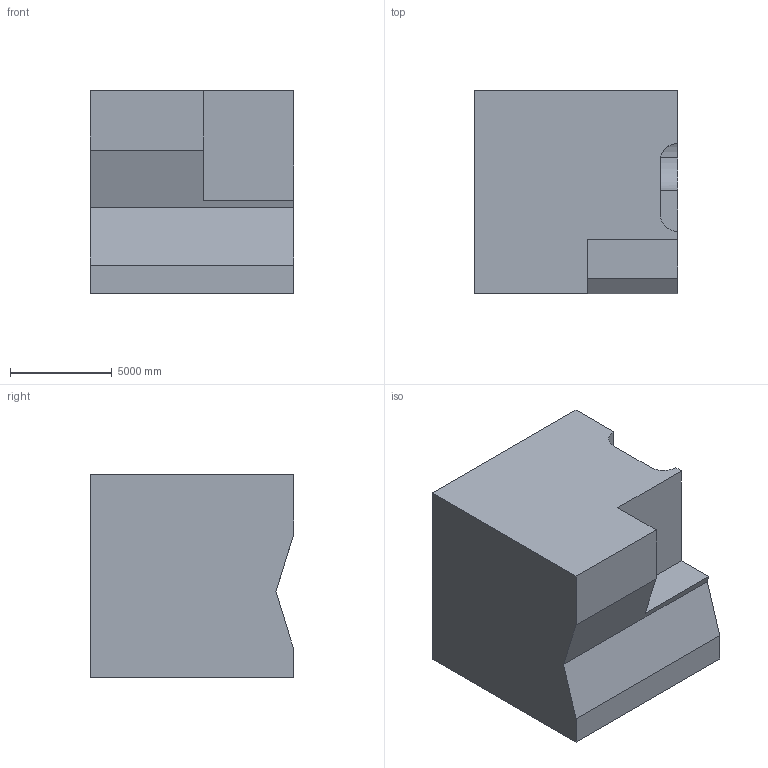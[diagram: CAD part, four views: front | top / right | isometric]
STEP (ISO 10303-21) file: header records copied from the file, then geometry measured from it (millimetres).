
FILE_DESCRIPTION (( 'STEP AP203' ), '1' );
FILE_NAME ('1374.STEP', '2022-08-18T14:06:48', ( 'user' ), ( '' ), 'SwSTEP 2.0', 'SolidWorks 2021', '' );
FILE_SCHEMA (( 'CONFIG_CONTROL_DESIGN' ));
Length unit declared in the file: centimetre
Products named in the file (1): 1374
Bounding box: 10000 x 10000 x 10000 mm (x, y, z)
Volume: 862288533284.7 mm3; surface area: 642310645.5 mm2
Topology: 1 solids, 1 shells, 19 faces, 51 edges, 34 vertices
Faces by surface type: plane 15, cylinder 4
Entity records: 728 total; most frequent: CARTESIAN_POINT 167, ORIENTED_EDGE 102, DIRECTION 97, EDGE_CURVE 51, LINE 41, VECTOR 41, VERTEX_POINT 34, AXIS2_PLACEMENT_3D 28
